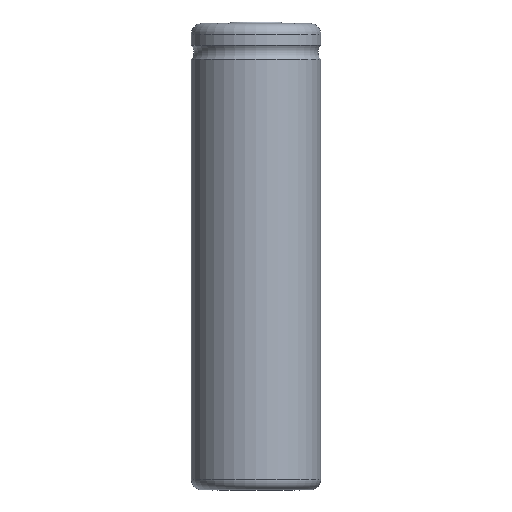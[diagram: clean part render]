
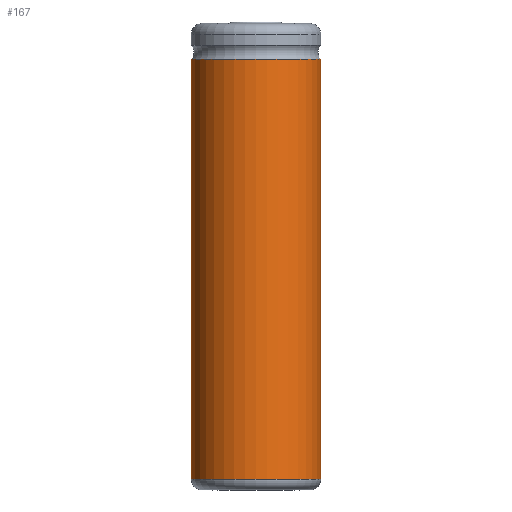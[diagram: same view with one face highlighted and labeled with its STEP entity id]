
A CAD part, front view. The second image highlights one B-rep face of the part: STEP entity #167.
In plain terms, the highlighted cylindrical face has radius 9 mm (diameter 18 mm), a full revolution.
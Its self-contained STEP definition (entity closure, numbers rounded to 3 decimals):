
#147 = VERTEX_POINT('',#148);
#148 = CARTESIAN_POINT('',(9.,0.,59.8));
#155 = EDGE_CURVE('',#147,#147,#156,.T.);
#156 = CIRCLE('',#157,9.);
#157 = AXIS2_PLACEMENT_3D('',#158,#159,#160);
#158 = CARTESIAN_POINT('',(0.,0.,59.8));
#159 = DIRECTION('',(0.,0.,-1.));
#160 = DIRECTION('',(1.,0.,0.));
#167 = ADVANCED_FACE('',(#168),#187,.T.);
#168 = FACE_BOUND('',#169,.T.);
#169 = EDGE_LOOP('',(#170,#171,#179,#186));
#170 = ORIENTED_EDGE('',*,*,#155,.T.);
#171 = ORIENTED_EDGE('',*,*,#172,.T.);
#172 = EDGE_CURVE('',#147,#173,#175,.T.);
#173 = VERTEX_POINT('',#174);
#174 = CARTESIAN_POINT('',(9.,0.,1.5));
#175 = LINE('',#176,#177);
#176 = CARTESIAN_POINT('',(9.,0.,59.8));
#177 = VECTOR('',#178,1.);
#178 = DIRECTION('',(0.,0.,-1.));
#179 = ORIENTED_EDGE('',*,*,#180,.F.);
#180 = EDGE_CURVE('',#173,#173,#181,.T.);
#181 = CIRCLE('',#182,9.);
#182 = AXIS2_PLACEMENT_3D('',#183,#184,#185);
#183 = CARTESIAN_POINT('',(0.,0.,1.5));
#184 = DIRECTION('',(0.,0.,-1.));
#185 = DIRECTION('',(1.,0.,0.));
#186 = ORIENTED_EDGE('',*,*,#172,.F.);
#187 = CYLINDRICAL_SURFACE('',#188,9.);
#188 = AXIS2_PLACEMENT_3D('',#189,#190,#191);
#189 = CARTESIAN_POINT('',(0.,0.,59.8));
#190 = DIRECTION('',(0.,0.,-1.));
#191 = DIRECTION('',(1.,0.,0.));
